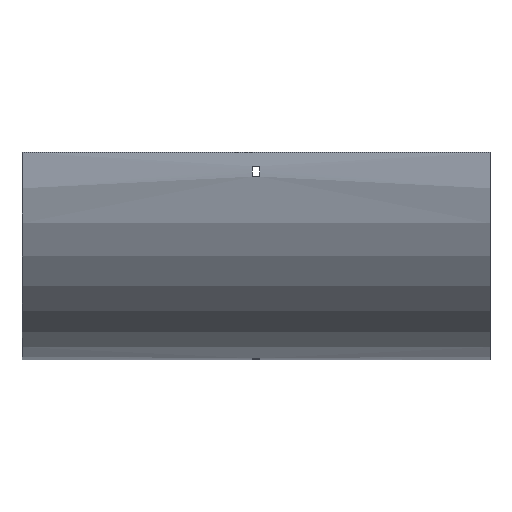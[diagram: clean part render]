
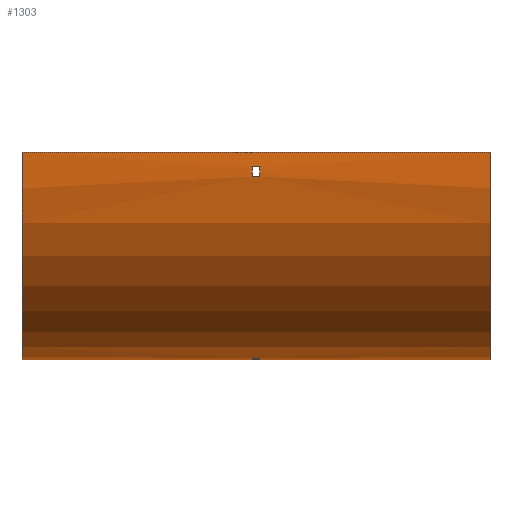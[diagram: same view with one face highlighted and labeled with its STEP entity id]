
A CAD part, front view. The second image highlights one B-rep face of the part: STEP entity #1303.
In plain terms, the highlighted cylindrical face has radius 179 mm (diameter 358 mm), a partial arc.
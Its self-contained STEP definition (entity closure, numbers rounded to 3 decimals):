
#2 = VERTEX_POINT ( 'NONE', #697 ) ;
#7 = ORIENTED_EDGE ( 'NONE', *, *, #1456, .F. ) ;
#38 = VERTEX_POINT ( 'NONE', #681 ) ;
#49 = CARTESIAN_POINT ( 'NONE',  ( 202., -78.597, -12. ) ) ;
#56 = AXIS2_PLACEMENT_3D ( 'NONE', #222, #381, #482 ) ;
#58 = AXIS2_PLACEMENT_3D ( 'NONE', #1298, #1685, #129 ) ;
#62 = DIRECTION ( 'NONE',  ( 0., 0., 1. ) ) ;
#63 = ORIENTED_EDGE ( 'NONE', *, *, #968, .F. ) ;
#66 = EDGE_LOOP ( 'NONE', ( #1113, #1367, #1565, #1236 ) ) ;
#103 = VERTEX_POINT ( 'NONE', #1090 ) ;
#107 = CIRCLE ( 'NONE', #56, 179. ) ;
#117 = EDGE_CURVE ( 'NONE', #38, #784, #980, .T. ) ;
#122 = CARTESIAN_POINT ( 'NONE',  ( 3.25, -78.597, -12. ) ) ;
#129 = DIRECTION ( 'NONE',  ( 0., 1., 0. ) ) ;
#162 = CARTESIAN_POINT ( 'NONE',  ( -202., 100., 0. ) ) ;
#187 = ORIENTED_EDGE ( 'NONE', *, *, #484, .T. ) ;
#206 = FACE_BOUND ( 'NONE', #643, .T. ) ;
#222 = CARTESIAN_POINT ( 'NONE',  ( 3.25, 100., 0. ) ) ;
#253 = AXIS2_PLACEMENT_3D ( 'NONE', #1184, #1602, #918 ) ;
#258 = DIRECTION ( 'NONE',  ( -1., 0., 0. ) ) ;
#274 = DIRECTION ( 'NONE',  ( 1., 0., 0. ) ) ;
#302 = DIRECTION ( 'NONE',  ( 0., 0., -1. ) ) ;
#310 = CARTESIAN_POINT ( 'NONE',  ( -3.25, -77.764, -21. ) ) ;
#340 = FACE_OUTER_BOUND ( 'NONE', #871, .T. ) ;
#353 = CARTESIAN_POINT ( 'NONE',  ( 202., -79., 0. ) ) ;
#363 = CARTESIAN_POINT ( 'NONE',  ( 3.25, 79., -177.764 ) ) ;
#368 = VERTEX_POINT ( 'NONE', #353 ) ;
#381 = DIRECTION ( 'NONE',  ( -1., 0., 0. ) ) ;
#401 = CARTESIAN_POINT ( 'NONE',  ( 202., 100., -179. ) ) ;
#409 = DIRECTION ( 'NONE',  ( 0., 0., 1. ) ) ;
#482 = DIRECTION ( 'NONE',  ( 0., 0., 1. ) ) ;
#484 = EDGE_CURVE ( 'NONE', #1202, #1324, #842, .T. ) ;
#524 = EDGE_CURVE ( 'NONE', #1062, #38, #1171, .T. ) ;
#527 = DIRECTION ( 'NONE',  ( -1., 0., 0. ) ) ;
#538 = CARTESIAN_POINT ( 'NONE',  ( 202., 88., -178.597 ) ) ;
#544 = CIRCLE ( 'NONE', #763, 179. ) ;
#549 = DIRECTION ( 'NONE',  ( 1., 0., 0. ) ) ;
#571 = DIRECTION ( 'NONE',  ( -1., 0., 0. ) ) ;
#580 = VERTEX_POINT ( 'NONE', #363 ) ;
#586 = CARTESIAN_POINT ( 'NONE',  ( 202., -77.764, -21. ) ) ;
#624 = CIRCLE ( 'NONE', #58, 179. ) ;
#643 = EDGE_LOOP ( 'NONE', ( #7, #63, #1030, #1575 ) ) ;
#651 = VECTOR ( 'NONE', #921, 1000. ) ;
#668 = EDGE_CURVE ( 'NONE', #103, #2, #1472, .T. ) ;
#681 = CARTESIAN_POINT ( 'NONE',  ( 3.25, -77.764, -21. ) ) ;
#697 = CARTESIAN_POINT ( 'NONE',  ( 3.25, 88., -178.597 ) ) ;
#725 = LINE ( 'NONE', #49, #1100 ) ;
#751 = CARTESIAN_POINT ( 'NONE',  ( 202., -79., 0. ) ) ;
#763 = AXIS2_PLACEMENT_3D ( 'NONE', #809, #527, #409 ) ;
#772 = EDGE_CURVE ( 'NONE', #368, #1563, #1230, .T. ) ;
#775 = CARTESIAN_POINT ( 'NONE',  ( -3.25, -78.597, -12. ) ) ;
#784 = VERTEX_POINT ( 'NONE', #310 ) ;
#809 = CARTESIAN_POINT ( 'NONE',  ( -3.25, 100., 0. ) ) ;
#842 = CIRCLE ( 'NONE', #958, 179. ) ;
#871 = EDGE_LOOP ( 'NONE', ( #187, #1186, #1256, #1152 ) ) ;
#884 = LINE ( 'NONE', #751, #1370 ) ;
#887 = DIRECTION ( 'NONE',  ( 1., 0., 0. ) ) ;
#918 = DIRECTION ( 'NONE',  ( 0., 0., -1. ) ) ;
#921 = DIRECTION ( 'NONE',  ( -1., 0., 0. ) ) ;
#932 = LINE ( 'NONE', #401, #651 ) ;
#955 = VECTOR ( 'NONE', #1606, 1000. ) ;
#958 = AXIS2_PLACEMENT_3D ( 'NONE', #162, #549, #302 ) ;
#968 = EDGE_CURVE ( 'NONE', #580, #1048, #1038, .T. ) ;
#980 = LINE ( 'NONE', #586, #955 ) ;
#987 = DIRECTION ( 'NONE',  ( 1., 0., 0. ) ) ;
#1020 = AXIS2_PLACEMENT_3D ( 'NONE', #1215, #571, #62 ) ;
#1022 = DIRECTION ( 'NONE',  ( -1., 0., 0. ) ) ;
#1030 = ORIENTED_EDGE ( 'NONE', *, *, #1039, .F. ) ;
#1038 = LINE ( 'NONE', #1273, #1551 ) ;
#1039 = EDGE_CURVE ( 'NONE', #2, #580, #107, .T. ) ;
#1043 = CARTESIAN_POINT ( 'NONE',  ( 3.25, 100., 0. ) ) ;
#1048 = VERTEX_POINT ( 'NONE', #1410 ) ;
#1062 = VERTEX_POINT ( 'NONE', #122 ) ;
#1090 = CARTESIAN_POINT ( 'NONE',  ( -3.25, 88., -178.597 ) ) ;
#1091 = FACE_BOUND ( 'NONE', #66, .T. ) ;
#1100 = VECTOR ( 'NONE', #987, 1000. ) ;
#1113 = ORIENTED_EDGE ( 'NONE', *, *, #117, .T. ) ;
#1122 = AXIS2_PLACEMENT_3D ( 'NONE', #1043, #887, #1542 ) ;
#1152 = ORIENTED_EDGE ( 'NONE', *, *, #1364, .T. ) ;
#1171 = CIRCLE ( 'NONE', #1122, 179. ) ;
#1184 = CARTESIAN_POINT ( 'NONE',  ( 202., 100., 0. ) ) ;
#1186 = ORIENTED_EDGE ( 'NONE', *, *, #1576, .F. ) ;
#1202 = VERTEX_POINT ( 'NONE', #1564 ) ;
#1215 = CARTESIAN_POINT ( 'NONE',  ( 202., 100., 0. ) ) ;
#1230 = CIRCLE ( 'NONE', #253, 179. ) ;
#1236 = ORIENTED_EDGE ( 'NONE', *, *, #524, .T. ) ;
#1256 = ORIENTED_EDGE ( 'NONE', *, *, #772, .F. ) ;
#1270 = CARTESIAN_POINT ( 'NONE',  ( -202., 100., -179. ) ) ;
#1273 = CARTESIAN_POINT ( 'NONE',  ( 202., 79., -177.764 ) ) ;
#1298 = CARTESIAN_POINT ( 'NONE',  ( -3.25, 100., 0. ) ) ;
#1303 = ADVANCED_FACE ( 'NONE', ( #340, #1091, #206 ), #1380, .T. ) ;
#1306 = CARTESIAN_POINT ( 'NONE',  ( 202., 100., -179. ) ) ;
#1324 = VERTEX_POINT ( 'NONE', #1270 ) ;
#1338 = VECTOR ( 'NONE', #274, 1000. ) ;
#1364 = EDGE_CURVE ( 'NONE', #368, #1202, #884, .T. ) ;
#1367 = ORIENTED_EDGE ( 'NONE', *, *, #1553, .T. ) ;
#1370 = VECTOR ( 'NONE', #1022, 1000. ) ;
#1380 = CYLINDRICAL_SURFACE ( 'NONE', #1020, 179. ) ;
#1410 = CARTESIAN_POINT ( 'NONE',  ( -3.25, 79., -177.764 ) ) ;
#1454 = VERTEX_POINT ( 'NONE', #775 ) ;
#1456 = EDGE_CURVE ( 'NONE', #1048, #103, #624, .T. ) ;
#1472 = LINE ( 'NONE', #538, #1338 ) ;
#1542 = DIRECTION ( 'NONE',  ( 0., 0., -1. ) ) ;
#1551 = VECTOR ( 'NONE', #258, 1000. ) ;
#1553 = EDGE_CURVE ( 'NONE', #784, #1454, #544, .T. ) ;
#1563 = VERTEX_POINT ( 'NONE', #1306 ) ;
#1564 = CARTESIAN_POINT ( 'NONE',  ( -202., -79., 0. ) ) ;
#1565 = ORIENTED_EDGE ( 'NONE', *, *, #1634, .T. ) ;
#1575 = ORIENTED_EDGE ( 'NONE', *, *, #668, .F. ) ;
#1576 = EDGE_CURVE ( 'NONE', #1563, #1324, #932, .T. ) ;
#1602 = DIRECTION ( 'NONE',  ( 1., 0., 0. ) ) ;
#1606 = DIRECTION ( 'NONE',  ( -1., 0., 0. ) ) ;
#1634 = EDGE_CURVE ( 'NONE', #1454, #1062, #725, .T. ) ;
#1685 = DIRECTION ( 'NONE',  ( 1., 0., 0. ) ) ;
